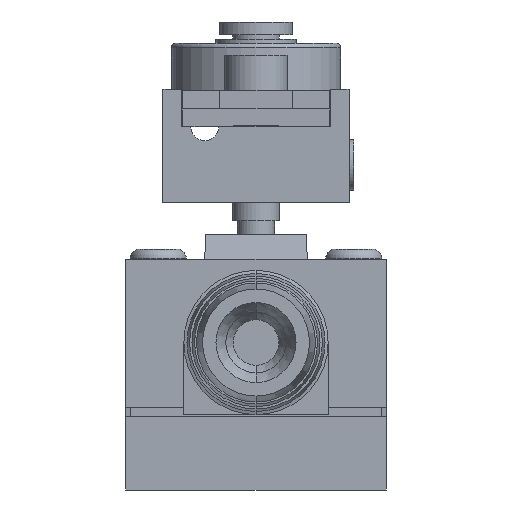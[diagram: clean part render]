
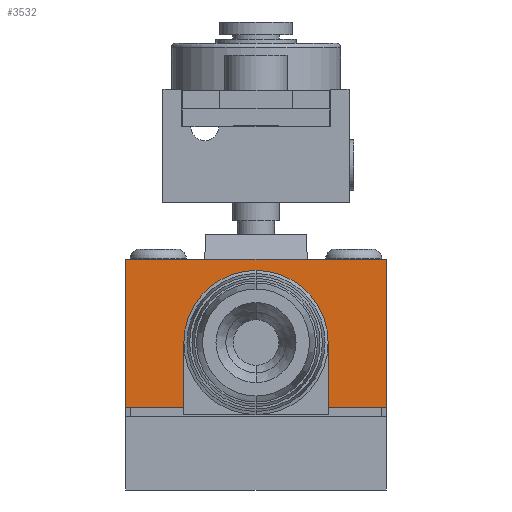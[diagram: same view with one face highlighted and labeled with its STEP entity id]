
A CAD part, front view. The second image highlights one B-rep face of the part: STEP entity #3532.
In plain terms, the highlighted planar face has unit normal (0, -1, 0).
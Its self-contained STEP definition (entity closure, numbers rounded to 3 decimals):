
#270 = EDGE_LOOP ( 'NONE', ( #5793, #5788, #5787, #5791 ) ) ;
#271 = EDGE_LOOP ( 'NONE', ( #5794, #5888 ) ) ;
#1137 = AXIS2_PLACEMENT_3D ( 'NONE', #8429, #8430, #8431 ) ;
#1539 = AXIS2_PLACEMENT_3D ( 'NONE', #11434, #11435, #11436 ) ;
#1540 = VECTOR ( 'NONE', #11416, 1000. ) ;
#1542 = VECTOR ( 'NONE', #11422, 1000. ) ;
#1543 = VECTOR ( 'NONE', #11425, 1000. ) ;
#1545 = VECTOR ( 'NONE', #11431, 1000. ) ;
#1706 = FACE_OUTER_BOUND ( 'NONE', #270, .T. ) ;
#1716 = FACE_BOUND ( 'NONE', #271, .T. ) ;
#1718 = AXIS2_PLACEMENT_3D ( 'NONE', #9071, #9072, #9073 ) ;
#2452 = VERTEX_POINT ( 'NONE', #6277 ) ;
#2453 = VERTEX_POINT ( 'NONE', #6278 ) ;
#2454 = VERTEX_POINT ( 'NONE', #6279 ) ;
#2455 = VERTEX_POINT ( 'NONE', #6280 ) ;
#2536 = VERTEX_POINT ( 'NONE', #7068 ) ;
#2537 = VERTEX_POINT ( 'NONE', #7069 ) ;
#3331 = EDGE_CURVE ( 'NONE', #2536, #2537, #6642, .T. ) ;
#3532 = ADVANCED_FACE ( 'NONE', ( #1706, #1716 ), #9070, .F. ) ;
#5787 = ORIENTED_EDGE ( 'NONE', *, *, #6498, .F. ) ;
#5788 = ORIENTED_EDGE ( 'NONE', *, *, #6503, .T. ) ;
#5791 = ORIENTED_EDGE ( 'NONE', *, *, #6500, .T. ) ;
#5793 = ORIENTED_EDGE ( 'NONE', *, *, #6501, .T. ) ;
#5794 = ORIENTED_EDGE ( 'NONE', *, *, #6505, .F. ) ;
#5888 = ORIENTED_EDGE ( 'NONE', *, *, #3331, .F. ) ;
#6277 = CARTESIAN_POINT ( 'NONE',  ( -14., -22.525, 24.8 ) ) ;
#6278 = CARTESIAN_POINT ( 'NONE',  ( -14., -22.525, 8.85 ) ) ;
#6279 = CARTESIAN_POINT ( 'NONE',  ( 14., -22.525, 8.85 ) ) ;
#6280 = CARTESIAN_POINT ( 'NONE',  ( 14., -22.525, 24.8 ) ) ;
#6498 = EDGE_CURVE ( 'NONE', #2455, #2454, #11414, .T. ) ;
#6500 = EDGE_CURVE ( 'NONE', #2455, #2452, #11420, .T. ) ;
#6501 = EDGE_CURVE ( 'NONE', #2452, #2453, #11423, .T. ) ;
#6503 = EDGE_CURVE ( 'NONE', #2453, #2454, #11429, .T. ) ;
#6505 = EDGE_CURVE ( 'NONE', #2537, #2536, #6855, .T. ) ;
#6642 = CIRCLE ( 'NONE', #1137, 4.75 ) ;
#6855 = CIRCLE ( 'NONE', #1539, 4.75 ) ;
#7068 = CARTESIAN_POINT ( 'NONE',  ( 0., -22.525, 11.1 ) ) ;
#7069 = CARTESIAN_POINT ( 'NONE',  ( 0., -22.525, 20.6 ) ) ;
#8429 = CARTESIAN_POINT ( 'NONE',  ( 0., -22.525, 15.85 ) ) ;
#8430 = DIRECTION ( 'NONE',  ( 0., -1., 0. ) ) ;
#8431 = DIRECTION ( 'NONE',  ( 0., 0., 1. ) ) ;
#9070 = PLANE ( 'NONE',  #1718 ) ;
#9071 = CARTESIAN_POINT ( 'NONE',  ( 14., -22.525, 24.8 ) ) ;
#9072 = DIRECTION ( 'NONE',  ( 0., 1., 0. ) ) ;
#9073 = DIRECTION ( 'NONE',  ( 0., 0., 1. ) ) ;
#11414 = LINE ( 'NONE', #11415, #1540 ) ;
#11415 = CARTESIAN_POINT ( 'NONE',  ( 14., -22.525, 24.8 ) ) ;
#11416 = DIRECTION ( 'NONE',  ( 0., 0., -1. ) ) ;
#11420 = LINE ( 'NONE', #11421, #1542 ) ;
#11421 = CARTESIAN_POINT ( 'NONE',  ( 14., -22.525, 24.8 ) ) ;
#11422 = DIRECTION ( 'NONE',  ( -1., 0., 0. ) ) ;
#11423 = LINE ( 'NONE', #11424, #1543 ) ;
#11424 = CARTESIAN_POINT ( 'NONE',  ( -14., -22.525, 24.8 ) ) ;
#11425 = DIRECTION ( 'NONE',  ( 0., 0., -1. ) ) ;
#11429 = LINE ( 'NONE', #11430, #1545 ) ;
#11430 = CARTESIAN_POINT ( 'NONE',  ( -14., -22.525, 8.85 ) ) ;
#11431 = DIRECTION ( 'NONE',  ( 1., 0., 0. ) ) ;
#11434 = CARTESIAN_POINT ( 'NONE',  ( 0., -22.525, 15.85 ) ) ;
#11435 = DIRECTION ( 'NONE',  ( 0., -1., 0. ) ) ;
#11436 = DIRECTION ( 'NONE',  ( 0., 0., 1. ) ) ;
